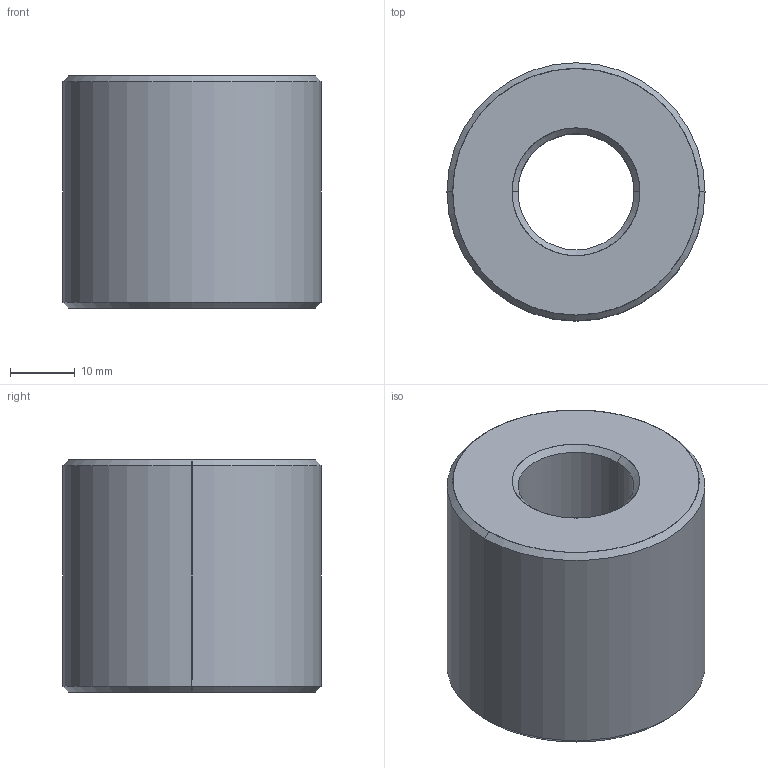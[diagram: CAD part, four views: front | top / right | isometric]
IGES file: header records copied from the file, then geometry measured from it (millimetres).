
Start section: SolidWorks IGES file using analytic representation for surfaces
Global section: file name: C:\Users\ianosborn\Desktop\L1330_v2\L1330_v2_20241024_IGES\L1330.R18-04.igs; native system: SolidWorks 2019; preprocessor: SolidWorks 2019; author: IanOsborn; date: 241024.102624; units: millimetre
Bounding box: 40 x 40 x 36 mm (x, y, z)
Surface area: 8371.8 mm2 (no closed solid volume)
Topology: 0 solids, 0 shells, 14 faces, 240 edges, 240 vertices
Faces by surface type: revolution 12, bspline 2
